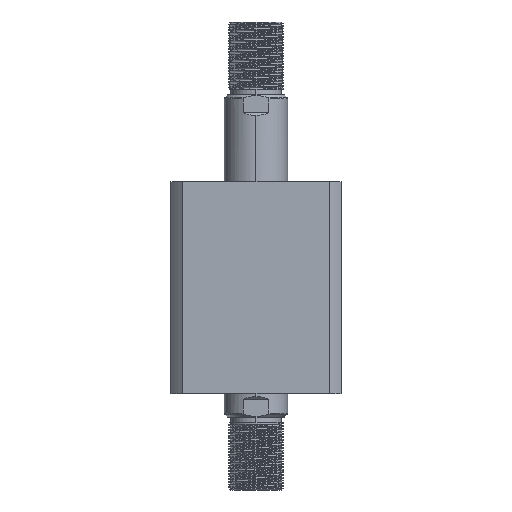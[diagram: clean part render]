
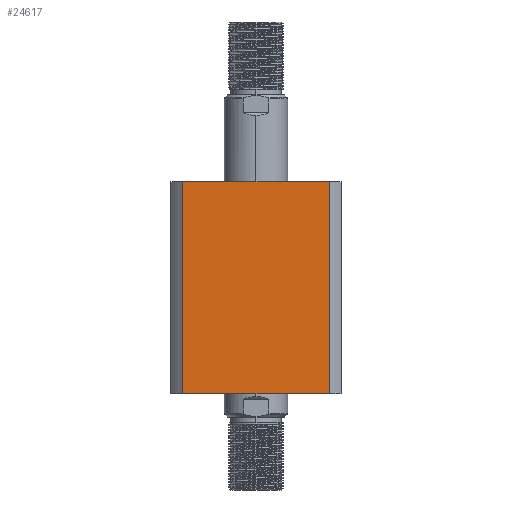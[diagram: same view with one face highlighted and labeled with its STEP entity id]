
A CAD part, left-side view. The second image highlights one B-rep face of the part: STEP entity #24617.
In plain terms, the highlighted planar face has unit normal (-1, 0, 0).
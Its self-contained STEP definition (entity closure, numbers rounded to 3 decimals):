
#31 = CARTESIAN_POINT ( 'NONE',  ( -47., -40.435, 0. ) ) ;
#543 = LINE ( 'NONE', #20605, #27557 ) ;
#865 = EDGE_CURVE ( 'NONE', #2957, #4926, #18395, .T. ) ;
#2095 = VECTOR ( 'NONE', #10760, 1000. ) ;
#2920 = LINE ( 'NONE', #11577, #13584 ) ;
#2957 = VERTEX_POINT ( 'NONE', #27141 ) ;
#3491 = EDGE_CURVE ( 'NONE', #4926, #13414, #21714, .T. ) ;
#4926 = VERTEX_POINT ( 'NONE', #27060 ) ;
#5512 = EDGE_CURVE ( 'NONE', #26226, #2957, #2920, .T. ) ;
#5718 = DIRECTION ( 'NONE',  ( 0., -1., 0. ) ) ;
#6479 = DIRECTION ( 'NONE',  ( 1., 0., 0. ) ) ;
#8398 = ORIENTED_EDGE ( 'NONE', *, *, #865, .F. ) ;
#8732 = EDGE_CURVE ( 'NONE', #26226, #13414, #543, .T. ) ;
#8743 = DIRECTION ( 'NONE',  ( 0., 0., -1. ) ) ;
#9717 = VECTOR ( 'NONE', #8743, 1000. ) ;
#10661 = PLANE ( 'NONE',  #12227 ) ;
#10760 = DIRECTION ( 'NONE',  ( 0., -1., 0. ) ) ;
#11577 = CARTESIAN_POINT ( 'NONE',  ( -47., 40.435, 300. ) ) ;
#12227 = AXIS2_PLACEMENT_3D ( 'NONE', #19228, #6479, #21358 ) ;
#12925 = ORIENTED_EDGE ( 'NONE', *, *, #3491, .F. ) ;
#13109 = CARTESIAN_POINT ( 'NONE',  ( -47., 47., 117. ) ) ;
#13414 = VERTEX_POINT ( 'NONE', #31 ) ;
#13584 = VECTOR ( 'NONE', #15862, 1000. ) ;
#15862 = DIRECTION ( 'NONE',  ( 0., 0., 1. ) ) ;
#16875 = ORIENTED_EDGE ( 'NONE', *, *, #5512, .F. ) ;
#18395 = LINE ( 'NONE', #13109, #2095 ) ;
#18404 = CARTESIAN_POINT ( 'NONE',  ( -47., 40.435, 0. ) ) ;
#19228 = CARTESIAN_POINT ( 'NONE',  ( -47., 47., 117. ) ) ;
#19356 = CARTESIAN_POINT ( 'NONE',  ( -47., -40.435, 300. ) ) ;
#20605 = CARTESIAN_POINT ( 'NONE',  ( -47., 47., 0. ) ) ;
#21358 = DIRECTION ( 'NONE',  ( 0., 1., 0. ) ) ;
#21714 = LINE ( 'NONE', #19356, #9717 ) ;
#22628 = ORIENTED_EDGE ( 'NONE', *, *, #8732, .T. ) ;
#22863 = EDGE_LOOP ( 'NONE', ( #12925, #8398, #16875, #22628 ) ) ;
#24617 = ADVANCED_FACE ( 'NONE', ( #24789 ), #10661, .F. ) ;
#24789 = FACE_OUTER_BOUND ( 'NONE', #22863, .T. ) ;
#26226 = VERTEX_POINT ( 'NONE', #18404 ) ;
#27060 = CARTESIAN_POINT ( 'NONE',  ( -47., -40.435, 117. ) ) ;
#27141 = CARTESIAN_POINT ( 'NONE',  ( -47., 40.435, 117. ) ) ;
#27557 = VECTOR ( 'NONE', #5718, 1000. ) ;
